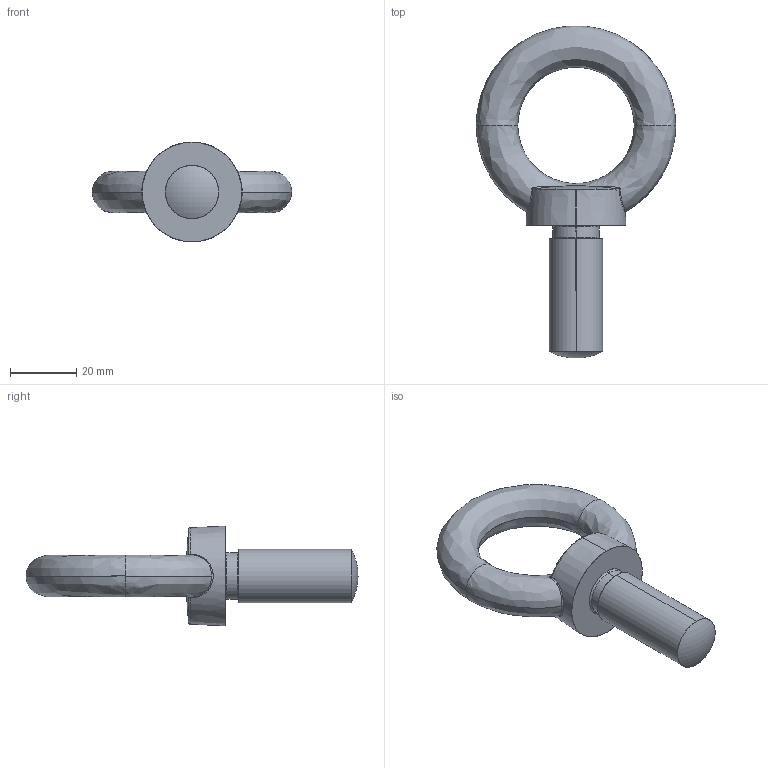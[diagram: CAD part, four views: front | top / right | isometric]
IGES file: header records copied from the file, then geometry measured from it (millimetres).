
Start section: SolidWorks IGES FILE using analytic representation for surfaces
Global section: file name: \\Ls-wvld1d\share\シブタニ\3D設計\ネジ・アイボルト\EB-901(S)-1640\EB-901(S)-1640.IGS,41HSolidWorks; native system: 2003 by SolidWorks Corporation; preprocessor: Version 5.3; author: user; date: 130703.175503; units: millimetre
Bounding box: 60 x 99.89 x 30 mm (x, y, z)
Surface area: 8986.6 mm2 (no closed solid volume)
Topology: 0 solids, 0 shells, 31 faces, 495 edges, 495 vertices
Faces by surface type: bspline 21, revolution 10
